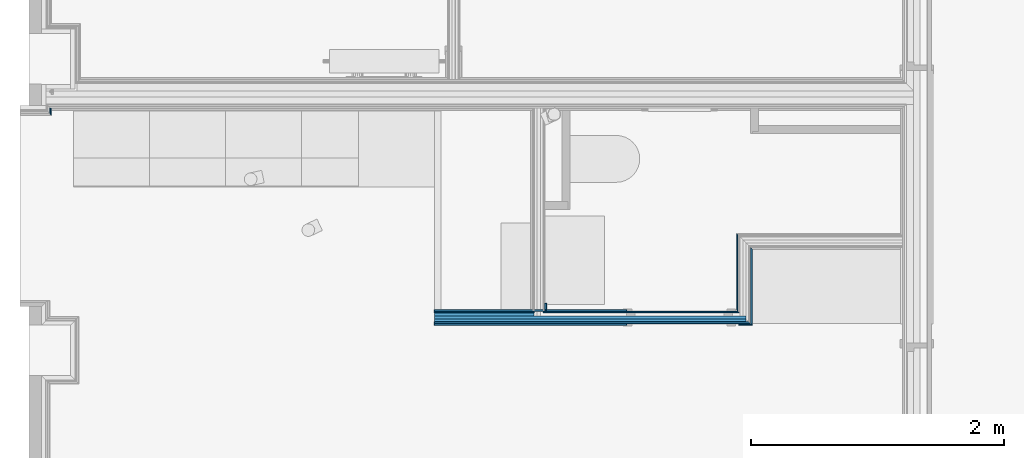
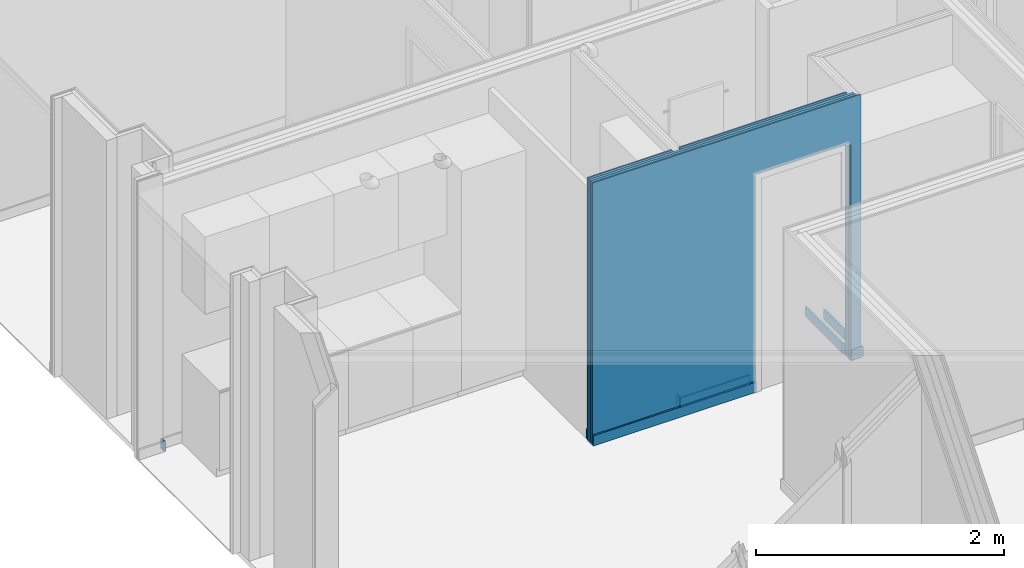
# One storey, part 27 of 85: 13 building element parts, 2 openings, 4 elements without a shape of their own.
"""IFC2X3 building model written with IfcOpenShell, lengths in metres."""

from ifc_helpers import new_model, entity, si_unit, converted_unit, derived_unit, money_unit, direction, frame, frame_2d, origin_with_axes, place, context, subcontext, project, spatial, polyline, rectangle, outline, extrude, material, type_object, element, aggregate, save


model = new_model("IFC2X3")

# Units and contexts
model_context = context("Model", 3, precision=1e-05, world=origin_with_axes(), true_north=direction((0.0, 1.0)))
body_context = subcontext(model_context, "Body", "Model", "MODEL_VIEW", scale=1.0)
ifc_project = project(units=[si_unit("LENGTHUNIT", "METRE"), si_unit("AREAUNIT", "SQUARE_METRE"), si_unit("VOLUMEUNIT", "CUBIC_METRE"), si_unit("ABSORBEDDOSEUNIT", "GRAY"), si_unit("AMOUNTOFSUBSTANCEUNIT", "MOLE"), si_unit("DOSEEQUIVALENTUNIT", "SIEVERT"), si_unit("ELECTRICCAPACITANCEUNIT", "FARAD"), si_unit("ELECTRICCHARGEUNIT", "COULOMB"), si_unit("ELECTRICCONDUCTANCEUNIT", "SIEMENS"), si_unit("ELECTRICCURRENTUNIT", "AMPERE"), si_unit("ELECTRICRESISTANCEUNIT", "OHM"), si_unit("ELECTRICVOLTAGEUNIT", "VOLT"), si_unit("ENERGYUNIT", "JOULE"), si_unit("FORCEUNIT", "NEWTON"), si_unit("FREQUENCYUNIT", "HERTZ"), si_unit("ILLUMINANCEUNIT", "LUX"), si_unit("INDUCTANCEUNIT", "HENRY"), si_unit("LUMINOUSFLUXUNIT", "LUMEN"), si_unit("LUMINOUSINTENSITYUNIT", "CANDELA"), si_unit("MAGNETICFLUXDENSITYUNIT", "TESLA"), si_unit("MAGNETICFLUXUNIT", "WEBER"), si_unit("MASSUNIT", "GRAM"), converted_unit("PLANEANGLEUNIT", "degree", entity("IfcReal", 0.0174532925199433), si_unit("PLANEANGLEUNIT", "RADIAN"), dimensions=[0, 0, 0, 0, 0, 0, 0]), si_unit("POWERUNIT", "WATT"), si_unit("PRESSUREUNIT", "PASCAL"), si_unit("RADIOACTIVITYUNIT", "BECQUEREL"), si_unit("SOLIDANGLEUNIT", "STERADIAN"), si_unit("THERMODYNAMICTEMPERATUREUNIT", "KELVIN"), si_unit("TIMEUNIT", "SECOND"), derived_unit("ACCELERATIONUNIT", [(si_unit("LENGTHUNIT", "METRE"), 1), (si_unit("TIMEUNIT", "SECOND"), -2)]), derived_unit("ANGULARVELOCITYUNIT", [(converted_unit("PLANEANGLEUNIT", "degree", entity("IfcReal", 0.0174532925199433), si_unit("PLANEANGLEUNIT", "RADIAN"), dimensions=[0, 0, 0, 0, 0, 0, 0]), 1), (si_unit("TIMEUNIT", "SECOND"), -1)]), derived_unit("CURVATUREUNIT", [(converted_unit("PLANEANGLEUNIT", "degree", entity("IfcReal", 0.0174532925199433), si_unit("PLANEANGLEUNIT", "RADIAN"), dimensions=[0, 0, 0, 0, 0, 0, 0]), 1), (si_unit("LENGTHUNIT", "METRE"), -1)]), derived_unit("DYNAMICVISCOSITYUNIT", [(si_unit("PRESSUREUNIT", "PASCAL"), 1), (si_unit("TIMEUNIT", "SECOND"), 1)]), derived_unit("HEATFLUXDENSITYUNIT", [(si_unit("POWERUNIT", "WATT"), 1), (si_unit("LENGTHUNIT", "METRE"), -2)]), derived_unit("HEATINGVALUEUNIT", [(si_unit("ENERGYUNIT", "JOULE"), 1), (si_unit("MASSUNIT", "GRAM"), -1)]), derived_unit("INTEGERCOUNTRATEUNIT", [(si_unit("TIMEUNIT", "SECOND"), -1)]), derived_unit("IONCONCENTRATIONUNIT", [(si_unit("MASSUNIT", "GRAM"), 1), (si_unit("VOLUMEUNIT", "CUBIC_METRE"), -1)]), derived_unit("ISOTHERMALMOISTURECAPACITYUNIT", [(si_unit("VOLUMEUNIT", "CUBIC_METRE"), 1), (si_unit("MASSUNIT", "GRAM"), -1)]), derived_unit("KINEMATICVISCOSITYUNIT", [(si_unit("AREAUNIT", "SQUARE_METRE"), 1), (si_unit("TIMEUNIT", "SECOND"), -1)]), derived_unit("LINEARFORCEUNIT", [(si_unit("FORCEUNIT", "NEWTON"), 1), (si_unit("LENGTHUNIT", "METRE"), -1)]), derived_unit("LINEARMOMENTUNIT", [(si_unit("FORCEUNIT", "NEWTON"), 1), (si_unit("LENGTHUNIT", "METRE"), -1)]), derived_unit("LINEARSTIFFNESSUNIT", [(si_unit("FORCEUNIT", "NEWTON"), 1), (si_unit("LENGTHUNIT", "METRE"), -1)]), derived_unit("LINEARVELOCITYUNIT", [(si_unit("LENGTHUNIT", "METRE"), 1), (si_unit("TIMEUNIT", "SECOND"), -1)]), derived_unit("LUMINOUSINTENSITYDISTRIBUTIONUNIT", [(si_unit("LUMINOUSINTENSITYUNIT", "CANDELA"), 1), (si_unit("LUMINOUSFLUXUNIT", "LUMEN"), -1)]), derived_unit("MASSDENSITYUNIT", [(si_unit("MASSUNIT", "GRAM"), 1), (si_unit("VOLUMEUNIT", "CUBIC_METRE"), -1)]), derived_unit("MASSFLOWRATEUNIT", [(si_unit("MASSUNIT", "GRAM"), 1), (si_unit("TIMEUNIT", "SECOND"), -1)]), derived_unit("MASSPERLENGTHUNIT", [(si_unit("MASSUNIT", "GRAM"), 1), (si_unit("LENGTHUNIT", "METRE"), -1)]), derived_unit("MODULUSOFELASTICITYUNIT", [(si_unit("FORCEUNIT", "NEWTON"), 1), (si_unit("AREAUNIT", "SQUARE_METRE"), -1)]), derived_unit("MODULUSOFLINEARSUBGRADEREACTIONUNIT", [(si_unit("FORCEUNIT", "NEWTON"), 1), (si_unit("LENGTHUNIT", "METRE"), -2)]), derived_unit("MODULUSOFROTATIONALSUBGRADEREACTIONUNIT", [(si_unit("FORCEUNIT", "NEWTON"), 1), (si_unit("LENGTHUNIT", "METRE"), 1)]), derived_unit("MODULUSOFSUBGRADEREACTIONUNIT", [(si_unit("FORCEUNIT", "NEWTON"), 1), (si_unit("VOLUMEUNIT", "CUBIC_METRE"), -1)]), derived_unit("MOISTUREDIFFUSIVITYUNIT", [(si_unit("VOLUMEUNIT", "CUBIC_METRE"), 1), (si_unit("TIMEUNIT", "SECOND"), -1)]), derived_unit("MOLECULARWEIGHTUNIT", [(si_unit("MASSUNIT", "GRAM"), 1), (si_unit("AMOUNTOFSUBSTANCEUNIT", "MOLE"), -1)]), derived_unit("PLANARFORCEUNIT", [(si_unit("FORCEUNIT", "NEWTON"), 1), (si_unit("LENGTHUNIT", "METRE"), -2)]), derived_unit("ROTATIONALFREQUENCYUNIT", [(si_unit("TIMEUNIT", "SECOND"), -1)]), derived_unit("ROTATIONALMASSUNIT", [(si_unit("MASSUNIT", "GRAM"), 1), (si_unit("LENGTHUNIT", "METRE"), 2)]), derived_unit("ROTATIONALSTIFFNESSUNIT", [(si_unit("FORCEUNIT", "NEWTON"), 1), (si_unit("LENGTHUNIT", "METRE"), 1), (converted_unit("PLANEANGLEUNIT", "degree", entity("IfcReal", 0.0174532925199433), si_unit("PLANEANGLEUNIT", "RADIAN"), dimensions=[0, 0, 0, 0, 0, 0, 0]), -1)]), derived_unit("SECTIONAREAINTEGRALUNIT", [(si_unit("LENGTHUNIT", "METRE"), 5)]), derived_unit("SECTIONMODULUSUNIT", [(si_unit("LENGTHUNIT", "METRE"), 3)]), derived_unit("SHEARMODULUSUNIT", [(si_unit("FORCEUNIT", "NEWTON"), 1), (si_unit("AREAUNIT", "SQUARE_METRE"), -1)]), derived_unit("SOUNDPOWERUNIT", [(si_unit("ENERGYUNIT", "JOULE"), 1), (si_unit("TIMEUNIT", "SECOND"), -1)]), derived_unit("SPECIFICHEATCAPACITYUNIT", [(si_unit("FORCEUNIT", "NEWTON"), 1), (si_unit("MASSUNIT", "GRAM"), -1), (si_unit("THERMODYNAMICTEMPERATUREUNIT", "KELVIN"), -1)]), derived_unit("TEMPERATUREGRADIENTUNIT", [(si_unit("THERMODYNAMICTEMPERATUREUNIT", "KELVIN"), 1), (si_unit("LENGTHUNIT", "METRE"), -1)]), derived_unit("THERMALADMITTANCEUNIT", [(si_unit("POWERUNIT", "WATT"), 1), (si_unit("AREAUNIT", "SQUARE_METRE"), -1), (si_unit("THERMODYNAMICTEMPERATUREUNIT", "KELVIN"), -1)]), derived_unit("THERMALCONDUCTANCEUNIT", [(si_unit("POWERUNIT", "WATT"), 1), (si_unit("LENGTHUNIT", "METRE"), -1), (si_unit("THERMODYNAMICTEMPERATUREUNIT", "KELVIN"), -1)]), derived_unit("THERMALEXPANSIONCOEFFICIENTUNIT", [(si_unit("THERMODYNAMICTEMPERATUREUNIT", "KELVIN"), -1)]), derived_unit("THERMALRESISTANCEUNIT", [(si_unit("AREAUNIT", "SQUARE_METRE"), 1), (si_unit("POWERUNIT", "WATT"), -1)]), derived_unit("THERMALTRANSMITTANCEUNIT", [(si_unit("POWERUNIT", "WATT"), 1), (si_unit("AREAUNIT", "SQUARE_METRE"), -1), (si_unit("THERMODYNAMICTEMPERATUREUNIT", "KELVIN"), -1)]), derived_unit("TORQUEUNIT", [(si_unit("FORCEUNIT", "NEWTON"), 1), (si_unit("LENGTHUNIT", "METRE"), 1)]), derived_unit("VAPORPERMEABILITYUNIT", [(si_unit("MASSUNIT", "GRAM"), 1), (si_unit("TIMEUNIT", "SECOND"), -1)]), derived_unit("VOLUMETRICFLOWRATEUNIT", [(si_unit("VOLUMEUNIT", "CUBIC_METRE"), 1), (si_unit("TIMEUNIT", "SECOND"), -1)]), derived_unit("WARPINGCONSTANTUNIT", [(si_unit("LENGTHUNIT", "METRE"), 6)]), derived_unit("WARPINGMOMENTUNIT", [(si_unit("FORCEUNIT", "NEWTON"), 1), (si_unit("LENGTHUNIT", "METRE"), 2)]), money_unit("GBP")], contexts=[model_context])

# Site, building, storey
site_placement = place(None, origin_with_axes())
site = spatial("IfcSite", under=ifc_project, at=site_placement, Name="Site", CompositionType="ELEMENT")
building_placement = place(site_placement, origin_with_axes())
building = spatial("IfcBuilding", under=site, at=building_placement, Name="Building01", CompositionType="ELEMENT")
storey_placement = place(building_placement, frame((0.0, 0.0, 12.13), z_axis=(0.0, 0.0, 1.0), x_axis=(1.0, 0.0, 0.0)))
storey = spatial("IfcBuildingStorey", under=building, at=storey_placement, Name="3F", CompositionType="ELEMENT", Elevation=12.13)

# Wall, building element part
wall_type_1 = type_object("IfcWallType", Name="SHE_A-Walls_Type05a_Partition_95mm_tall", PredefinedType="NOTDEFINED")
wall_1_placement = place(storey_placement, frame((4.20573, 6.571475, 0.0), z_axis=(0.0, 0.0, 1.0), x_axis=(0.0, 1.0, 0.0)))
wall_1 = element("IfcWall", 1, at=wall_1_placement, inside=storey, type_object=wall_type_1, Name="5A", ObjectType="SHE_A-Walls_Type05a_Partition_95mm_tall")
ifc_material_1 = material(Name="A_BSUK_Walls_Timber")
building_element_part_1_placement = place(wall_1_placement, origin_with_axes())
building_element_part_1 = element("IfcBuildingElementPart", 2, at=building_element_part_1_placement, material=ifc_material_1, Name="1", context=body_context, shape_type="SweptSolid", body=[
    extrude(rectangle(XDim=0.015, YDim=0.050695, at=frame_2d((0.075347, -0.0425), x_axis=(0.0, -1.0))), frame((0.0, 0.0, 0.015), z_axis=(0.0, 0.0, 1.0), x_axis=(1.0, 0.0, 0.0)), (0.0, 0.0, 1.0), 0.1),
])
aggregate(wall_1, [building_element_part_1])

# Wall, openings, building element parts
wall_2_placement = place(storey_placement, frame((5.829669, 6.571475, 0.0), z_axis=(0.0, 0.0, 1.0), x_axis=(-1.0, 0.0, 0.0)))
wall_2 = element("IfcWall", 3, at=wall_2_placement, inside=storey, type_object=wall_type_1, Name="5A", ObjectType="SHE_A-Walls_Type05a_Partition_95mm_tall")
opening_1_placement = place(wall_2_placement, frame((0.058581, 0.075, -0.015), z_axis=(0.0, 0.0, 1.0), x_axis=(1.0, 0.0, 0.0)))
element("IfcOpeningElement", 4, at=opening_1_placement, cuts=wall_2, Name="Opening", ObjectType="Opening", context=body_context, shape_type="SweptSolid", body=[
    extrude(rectangle(XDim=2.142, YDim=0.834, at=frame_2d((0.417, 1.071), x_axis=(0.0, -1.0))), frame((0.0, 0.0, 0.0), z_axis=(0.0, -1.0, 0.0), x_axis=(1.0, 0.0, 0.0)), (0.0, 0.0, 1.0), 0.125),
])
opening_2_placement = place(wall_2_placement, frame((0.108581, 0.075, 0.0), z_axis=(0.0, 0.0, 1.0), x_axis=(1.0, 0.0, 0.0)))
element("IfcOpeningElement", 5, at=opening_2_placement, cuts=wall_2, Name="Opening", ObjectType="Opening", context=body_context, shape_type="SweptSolid", body=[
    extrude(rectangle(XDim=2.142, YDim=0.834, at=frame_2d((0.417, 1.071), x_axis=(0.0, -1.0))), frame((0.0, 0.0, 0.0), z_axis=(0.0, -1.0, 0.0), x_axis=(1.0, 0.0, 0.0)), (0.0, 0.0, 1.0), 0.125),
])
placement_1 = place(wall_2_placement, origin_with_axes())
building_element_part_2 = element("IfcBuildingElementPart", 6, at=placement_1, material=ifc_material_1, Name="1", context=body_context, shape_type="SweptSolid", body=[
    extrude(outline(polyline([(1.588939, -0.035), (0.06, -0.035), (0.075, -0.05), (1.588939, -0.05), (1.588939, -0.035)])), frame((0.0, 0.0, 0.015), z_axis=(0.0, 0.0, 1.0), x_axis=(1.0, 0.0, 0.0)), (0.0, 0.0, 1.0), 0.1),
])
building_element_part_3 = element("IfcBuildingElementPart", 7, at=placement_1, material=ifc_material_1, Name="2", context=body_context, shape_type="SweptSolid", body=[
    extrude(outline(polyline([(0.06, -0.035), (0.075, -0.05), (2.458939, -0.05), (2.458939, -0.035), (0.06, -0.035)])), frame((0.0, 0.0, 0.015), z_axis=(0.0, 0.0, 1.0), x_axis=(1.0, 0.0, 0.0)), (0.0, 0.0, 1.0), 0.1),
])
ifc_material_2 = material(Name="A_BSUK_WallInternal_Finishes_Plasterboard")
building_element_part_4 = element("IfcBuildingElementPart", 8, at=placement_1, material=ifc_material_2, Name="3", context=body_context, shape_type="SweptSolid", body=[
    extrude(outline(polyline([(1.600939, -0.023), (0.048, -0.023), (0.06, -0.035), (1.600939, -0.035), (1.600939, -0.023)])), origin_with_axes(), (0.0, 0.0, 1.0), 2.59),
])
building_element_part_5 = element("IfcBuildingElementPart", 9, at=placement_1, material=ifc_material_2, Name="4", context=body_context, shape_type="SweptSolid", body=[
    extrude(rectangle(XDim=0.012, YDim=0.787, at=frame_2d((2.065439, -0.029), x_axis=(0.0, -1.0))), origin_with_axes(), (0.0, 0.0, 1.0), 2.59),
])
ifc_material_3 = material(Name="Air Cavity")
building_element_part_6 = element("IfcBuildingElementPart", 10, at=placement_1, material=ifc_material_3, Name="5", context=body_context, shape_type="SweptSolid", body=[
    extrude(rectangle(XDim=0.023, YDim=0.787, at=frame_2d((2.065439, -0.0115), x_axis=(0.0, -1.0))), origin_with_axes(), (0.0, 0.0, 1.0), 2.59),
])
ifc_material_4 = material(Name="A_BSUK_Insulation")
building_element_part_7 = element("IfcBuildingElementPart", 11, at=placement_1, material=ifc_material_4, Name="6", context=body_context, shape_type="SweptSolid", body=[
    extrude(rectangle(XDim=0.025, YDim=2.458939, at=frame_2d((1.229469, 0.0125), x_axis=(0.0, -1.0))), origin_with_axes(), (0.0, 0.0, 1.0), 2.59),
])
building_element_part_8 = element("IfcBuildingElementPart", 12, at=placement_1, material=ifc_material_3, Name="7", context=body_context, shape_type="SweptSolid", body=[
    extrude(rectangle(XDim=0.023, YDim=2.458939, at=frame_2d((1.229469, 0.0365), x_axis=(0.0, -1.0))), origin_with_axes(), (0.0, 0.0, 1.0), 2.59),
])
building_element_part_9 = element("IfcBuildingElementPart", 13, at=placement_1, material=ifc_material_2, Name="8", context=body_context, shape_type="SweptSolid", body=[
    extrude(outline(polyline([(-0.035, 0.06), (-0.023, 0.048), (2.458939, 0.048), (2.458939, 0.06), (-0.035, 0.06)])), origin_with_axes(), (0.0, 0.0, 1.0), 2.59),
])
building_element_part_10 = element("IfcBuildingElementPart", 14, at=placement_1, material=ifc_material_1, Name="9", context=body_context, shape_type="SweptSolid", body=[
    extrude(outline(polyline([(-0.05, 0.075), (-0.035, 0.06), (2.458939, 0.06), (2.458939, 0.075), (-0.05, 0.075)])), frame((0.0, 0.0, 0.015), z_axis=(0.0, 0.0, 1.0), x_axis=(1.0, 0.0, 0.0)), (0.0, 0.0, 1.0), 0.1),
])
aggregate(wall_2, [building_element_part_2, building_element_part_3, building_element_part_4, building_element_part_5, building_element_part_6, building_element_part_7, building_element_part_8, building_element_part_9, building_element_part_10])

# Wall, building element parts
wall_3_placement = place(storey_placement, frame((5.804669, 6.571475, 0.0), z_axis=(0.0, 0.0, 1.0), x_axis=(0.0, 1.0, 0.0)))
wall_3 = element("IfcWall", 15, at=wall_3_placement, inside=storey, type_object=wall_type_1, Name="5A", ObjectType="SHE_A-Walls_Type05a_Partition_95mm_tall")
placement_2 = place(wall_3_placement, origin_with_axes())
building_element_part_11 = element("IfcBuildingElementPart", 16, at=placement_2, material=ifc_material_1, Name="1", context=body_context, shape_type="SweptSolid", body=[
    extrude(outline(polyline([(0.54, -0.06), (-0.06, -0.06), (-0.075, -0.075), (0.525, -0.075), (0.54, -0.06)])), frame((0.0, 0.0, 0.015), z_axis=(0.0, 0.0, 1.0), x_axis=(1.0, 0.0, 0.0)), (0.0, 0.0, 1.0), 0.1),
])
building_element_part_12 = element("IfcBuildingElementPart", 17, at=placement_2, material=ifc_material_1, Name="7", context=body_context, shape_type="SweptSolid", body=[
    extrude(outline(polyline([(0.65, 0.05), (0.05, 0.05), (0.035, 0.035), (0.635, 0.035), (0.65, 0.05)])), frame((0.0, 0.0, 0.015), z_axis=(0.0, 0.0, 1.0), x_axis=(1.0, 0.0, 0.0)), (0.0, 0.0, 1.0), 0.1),
])
aggregate(wall_3, [building_element_part_11, building_element_part_12])

# Wall, building element part
wall_type_2 = type_object("IfcWallType", Name="SHE_A-Walls_Type06f_ExternalWallInsulation_48+15mm", PredefinedType="NOTDEFINED")
wall_4_placement = place(storey_placement, frame((0.27, 8.233, 0.0), z_axis=(0.0, 0.0, 1.0), x_axis=(0.0, 1.0, 0.0)))
wall_4 = element("IfcWall", 18, at=wall_4_placement, inside=storey, type_object=wall_type_2, Name="6F", ObjectType="SHE_A-Walls_Type06f_ExternalWallInsulation_48+15mm")
building_element_part_13_placement = place(wall_4_placement, origin_with_axes())
building_element_part_13 = element("IfcBuildingElementPart", 19, at=building_element_part_13_placement, material=ifc_material_1, Name="1", context=body_context, shape_type="SweptSolid", body=[
    extrude(outline(polyline([(-0.063, -0.063), (-0.078, -0.078), (-0.02233, -0.078), (-0.02233, -0.063), (-0.063, -0.063)])), frame((0.0, 0.0, 0.015), z_axis=(0.0, 0.0, 1.0), x_axis=(1.0, 0.0, 0.0)), (0.0, 0.0, 1.0), 0.1),
])
aggregate(wall_4, [building_element_part_13])

save(model, "model.ifc")
